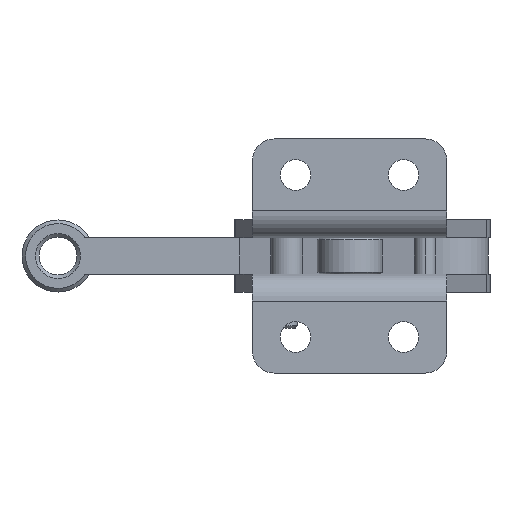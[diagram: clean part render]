
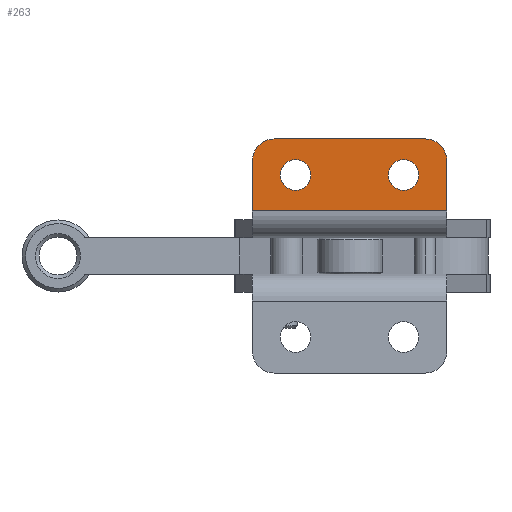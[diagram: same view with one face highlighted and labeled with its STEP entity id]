
A CAD part, front view. The second image highlights one B-rep face of the part: STEP entity #263.
In plain terms, the highlighted planar face has unit normal (0, -1, 0).
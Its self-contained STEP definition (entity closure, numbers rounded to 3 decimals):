
#263 = ADVANCED_FACE( '', ( #523, #524, #525 ), #526, .F. );
#523 = FACE_BOUND( '', #1076, .T. );
#524 = FACE_BOUND( '', #1077, .T. );
#525 = FACE_OUTER_BOUND( '', #1078, .T. );
#526 = PLANE( '', #1079 );
#1076 = EDGE_LOOP( '', ( #1813 ) );
#1077 = EDGE_LOOP( '', ( #1814 ) );
#1078 = EDGE_LOOP( '', ( #1815, #1816, #1817, #1818, #1819, #1820 ) );
#1079 = AXIS2_PLACEMENT_3D( '', #1821, #1822, #1823 );
#1813 = ORIENTED_EDGE( '', *, *, #3394, .T. );
#1814 = ORIENTED_EDGE( '', *, *, #3395, .T. );
#1815 = ORIENTED_EDGE( '', *, *, #3396, .F. );
#1816 = ORIENTED_EDGE( '', *, *, #3397, .F. );
#1817 = ORIENTED_EDGE( '', *, *, #3370, .F. );
#1818 = ORIENTED_EDGE( '', *, *, #3398, .F. );
#1819 = ORIENTED_EDGE( '', *, *, #3399, .T. );
#1820 = ORIENTED_EDGE( '', *, *, #3400, .F. );
#1821 = CARTESIAN_POINT( '', ( 5., 0., 32.5 ) );
#1822 = DIRECTION( '', ( 0., 1., 0. ) );
#1823 = DIRECTION( '', ( 0., 0., 1. ) );
#3370 = EDGE_CURVE( '', #3944, #3945, #3946, .T. );
#3394 = EDGE_CURVE( '', #3987, #3987, #3988, .T. );
#3395 = EDGE_CURVE( '', #3989, #3989, #3990, .T. );
#3396 = EDGE_CURVE( '', #3991, #3992, #3993, .T. );
#3397 = EDGE_CURVE( '', #3945, #3991, #3994, .T. );
#3398 = EDGE_CURVE( '', #3995, #3944, #3996, .T. );
#3399 = EDGE_CURVE( '', #3995, #3997, #3998, .T. );
#3400 = EDGE_CURVE( '', #3992, #3997, #3999, .T. );
#3944 = VERTEX_POINT( '', #5005 );
#3945 = VERTEX_POINT( '', #5006 );
#3946 = LINE( '', #5007, #5008 );
#3987 = VERTEX_POINT( '', #5068 );
#3988 = CIRCLE( '', #5069, 4.25 );
#3989 = VERTEX_POINT( '', #5070 );
#3990 = CIRCLE( '', #5071, 4.25 );
#3991 = VERTEX_POINT( '', #5072 );
#3992 = VERTEX_POINT( '', #5073 );
#3993 = LINE( '', #5074, #5075 );
#3994 = CIRCLE( '', #5076, 6. );
#3995 = VERTEX_POINT( '', #5077 );
#3996 = CIRCLE( '', #5078, 6. );
#3997 = VERTEX_POINT( '', #5079 );
#3998 = LINE( '', #5080, #5081 );
#3999 = LINE( '', #5082, #5083 );
#5005 = CARTESIAN_POINT( '', ( 11., 0., 32.5 ) );
#5006 = CARTESIAN_POINT( '', ( 53., 0., 32.5 ) );
#5007 = CARTESIAN_POINT( '', ( 5., 0., 32.5 ) );
#5008 = VECTOR( '', #6685, 1000. );
#5068 = CARTESIAN_POINT( '', ( 51.25, 0., 22.5 ) );
#5069 = AXIS2_PLACEMENT_3D( '', #6717, #6718, #6719 );
#5070 = CARTESIAN_POINT( '', ( 21.25, 0., 22.5 ) );
#5071 = AXIS2_PLACEMENT_3D( '', #6720, #6721, #6722 );
#5072 = CARTESIAN_POINT( '', ( 59., 0., 26.5 ) );
#5073 = CARTESIAN_POINT( '', ( 59., 0., 12.5 ) );
#5074 = CARTESIAN_POINT( '', ( 59., 0., 32.5 ) );
#5075 = VECTOR( '', #6723, 1000. );
#5076 = AXIS2_PLACEMENT_3D( '', #6724, #6725, #6726 );
#5077 = CARTESIAN_POINT( '', ( 5., 0., 26.5 ) );
#5078 = AXIS2_PLACEMENT_3D( '', #6727, #6728, #6729 );
#5079 = CARTESIAN_POINT( '', ( 5., 0., 12.5 ) );
#5080 = CARTESIAN_POINT( '', ( 5., 0., 32.5 ) );
#5081 = VECTOR( '', #6730, 1000. );
#5082 = CARTESIAN_POINT( '', ( 100., 0., 12.5 ) );
#5083 = VECTOR( '', #6731, 1000. );
#6685 = DIRECTION( '', ( 1., 0., 0. ) );
#6717 = CARTESIAN_POINT( '', ( 47., 0., 22.5 ) );
#6718 = DIRECTION( '', ( 0., 1., 0. ) );
#6719 = DIRECTION( '', ( 1., 0., 0. ) );
#6720 = CARTESIAN_POINT( '', ( 17., 0., 22.5 ) );
#6721 = DIRECTION( '', ( 0., 1., 0. ) );
#6722 = DIRECTION( '', ( 1., 0., 0. ) );
#6723 = DIRECTION( '', ( 0., 0., -1. ) );
#6724 = CARTESIAN_POINT( '', ( 53., 0., 26.5 ) );
#6725 = DIRECTION( '', ( 0., 1., 0. ) );
#6726 = DIRECTION( '', ( 1., 0., 0. ) );
#6727 = CARTESIAN_POINT( '', ( 11., 0., 26.5 ) );
#6728 = DIRECTION( '', ( 0., 1., 0. ) );
#6729 = DIRECTION( '', ( 1., 0., 0. ) );
#6730 = DIRECTION( '', ( 0., 0., -1. ) );
#6731 = DIRECTION( '', ( -1., 0., 0. ) );
